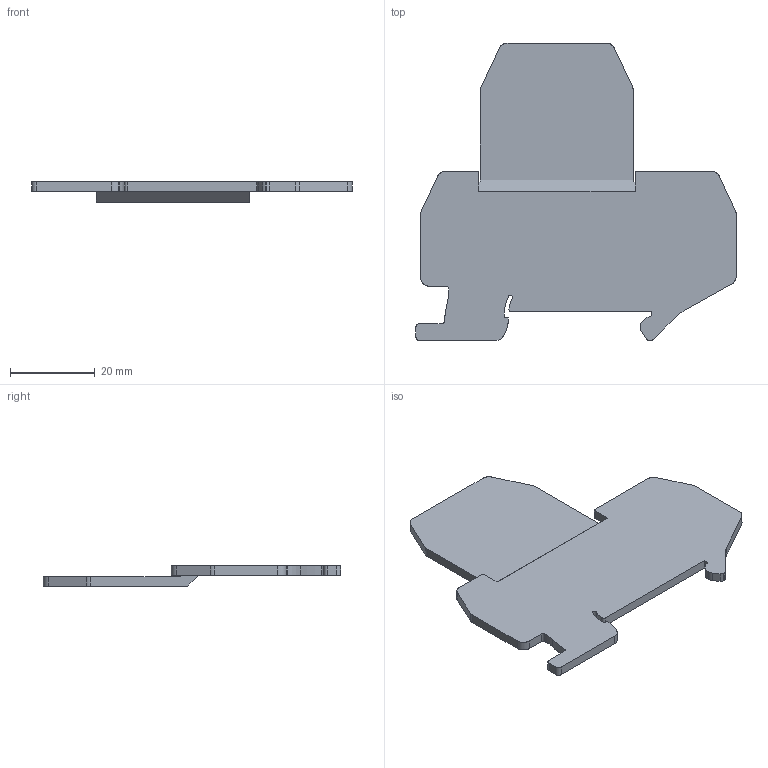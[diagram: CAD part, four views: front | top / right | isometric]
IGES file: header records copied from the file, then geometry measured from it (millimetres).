
Global section: file name: 3047316_atp_uttb25_4_select.igs; native system: OneSpace Designer 3D IGES; preprocessor: 13.01  05-Feb-2005; date: 20060114.083923; units: millimetre
Bounding box: 75.45 x 70.05 x 4.78 mm (x, y, z)
Surface area: 7809 mm2 (no closed solid volume)
Topology: 0 solids, 0 shells, 71 faces, 580 edges, 580 vertices
Faces by surface type: bspline 71
